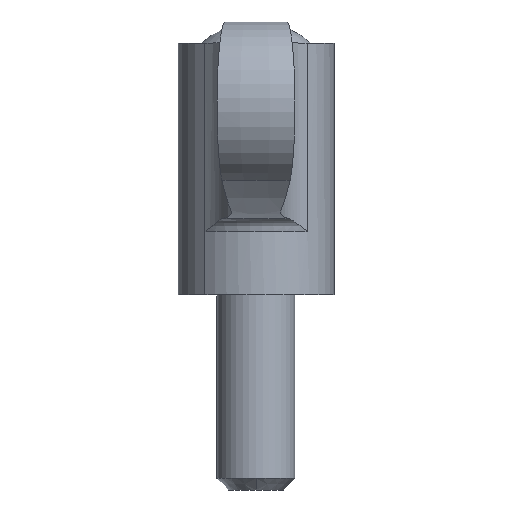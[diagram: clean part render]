
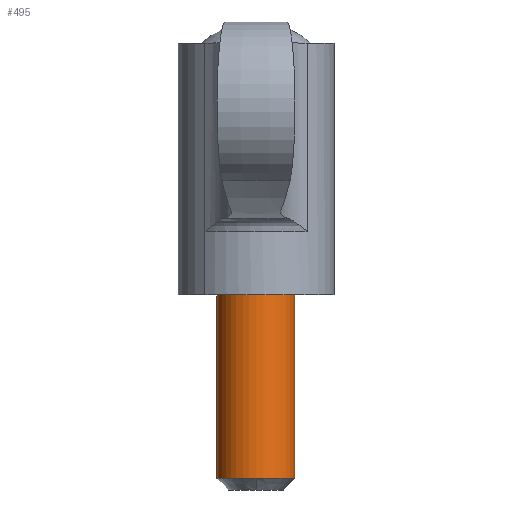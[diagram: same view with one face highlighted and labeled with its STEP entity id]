
A CAD part, left-side view. The second image highlights one B-rep face of the part: STEP entity #495.
In plain terms, the highlighted cylindrical face has radius 4 mm (diameter 8 mm), a partial arc.
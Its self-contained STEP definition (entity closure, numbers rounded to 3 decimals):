
#35 = DIRECTION ( 'NONE',  ( 0., 0., 1. ) ) ;
#42 = ORIENTED_EDGE ( 'NONE', *, *, #1349, .F. ) ;
#47 = VERTEX_POINT ( 'NONE', #607 ) ;
#109 = CIRCLE ( 'NONE', #800, 4. ) ;
#135 = AXIS2_PLACEMENT_3D ( 'NONE', #815, #1435, #842 ) ;
#159 = DIRECTION ( 'NONE',  ( 0., 0., 1. ) ) ;
#181 = CARTESIAN_POINT ( 'NONE',  ( 0., -4., -18.8 ) ) ;
#261 = DIRECTION ( 'NONE',  ( 0., 0., 1. ) ) ;
#314 = CARTESIAN_POINT ( 'NONE',  ( 0., 0., 32.978 ) ) ;
#334 = AXIS2_PLACEMENT_3D ( 'NONE', #503, #261, #824 ) ;
#399 = CARTESIAN_POINT ( 'NONE',  ( 0., -4., 32.978 ) ) ;
#411 = ORIENTED_EDGE ( 'NONE', *, *, #1549, .F. ) ;
#418 = EDGE_CURVE ( 'NONE', #1317, #987, #961, .T. ) ;
#495 = ADVANCED_FACE ( 'NONE', ( #1407 ), #695, .T. ) ;
#503 = CARTESIAN_POINT ( 'NONE',  ( 0., 0., -18.8 ) ) ;
#534 = AXIS2_PLACEMENT_3D ( 'NONE', #314, #806, #906 ) ;
#560 = VECTOR ( 'NONE', #159, 1000. ) ;
#607 = CARTESIAN_POINT ( 'NONE',  ( -4., 0., -18.8 ) ) ;
#638 = EDGE_CURVE ( 'NONE', #47, #1317, #1120, .T. ) ;
#680 = CARTESIAN_POINT ( 'NONE',  ( 0., 4., 0. ) ) ;
#683 = CARTESIAN_POINT ( 'NONE',  ( 0., 4., -18.8 ) ) ;
#695 = CYLINDRICAL_SURFACE ( 'NONE', #534, 4. ) ;
#723 = ORIENTED_EDGE ( 'NONE', *, *, #418, .T. ) ;
#736 = CIRCLE ( 'NONE', #135, 4. ) ;
#766 = ORIENTED_EDGE ( 'NONE', *, *, #1454, .T. ) ;
#800 = AXIS2_PLACEMENT_3D ( 'NONE', #932, #1445, #1544 ) ;
#806 = DIRECTION ( 'NONE',  ( 0., 0., 1. ) ) ;
#815 = CARTESIAN_POINT ( 'NONE',  ( 0., 0., 0. ) ) ;
#824 = DIRECTION ( 'NONE',  ( -1., 0., 0. ) ) ;
#842 = DIRECTION ( 'NONE',  ( 0., -1., 0. ) ) ;
#906 = DIRECTION ( 'NONE',  ( 0., -1., 0. ) ) ;
#911 = EDGE_LOOP ( 'NONE', ( #411, #766, #1282, #723, #42 ) ) ;
#932 = CARTESIAN_POINT ( 'NONE',  ( 0., 0., -18.8 ) ) ;
#952 = VERTEX_POINT ( 'NONE', #680 ) ;
#961 = LINE ( 'NONE', #399, #560 ) ;
#980 = LINE ( 'NONE', #986, #1227 ) ;
#986 = CARTESIAN_POINT ( 'NONE',  ( 0., 4., 32.978 ) ) ;
#987 = VERTEX_POINT ( 'NONE', #1185 ) ;
#1120 = CIRCLE ( 'NONE', #334, 4. ) ;
#1185 = CARTESIAN_POINT ( 'NONE',  ( 0., -4., 0. ) ) ;
#1227 = VECTOR ( 'NONE', #35, 1000. ) ;
#1282 = ORIENTED_EDGE ( 'NONE', *, *, #638, .T. ) ;
#1317 = VERTEX_POINT ( 'NONE', #181 ) ;
#1332 = VERTEX_POINT ( 'NONE', #683 ) ;
#1349 = EDGE_CURVE ( 'NONE', #952, #987, #736, .T. ) ;
#1407 = FACE_OUTER_BOUND ( 'NONE', #911, .T. ) ;
#1435 = DIRECTION ( 'NONE',  ( 0., 0., 1. ) ) ;
#1445 = DIRECTION ( 'NONE',  ( 0., 0., 1. ) ) ;
#1454 = EDGE_CURVE ( 'NONE', #1332, #47, #109, .T. ) ;
#1544 = DIRECTION ( 'NONE',  ( -1., 0., 0. ) ) ;
#1549 = EDGE_CURVE ( 'NONE', #1332, #952, #980, .T. ) ;
